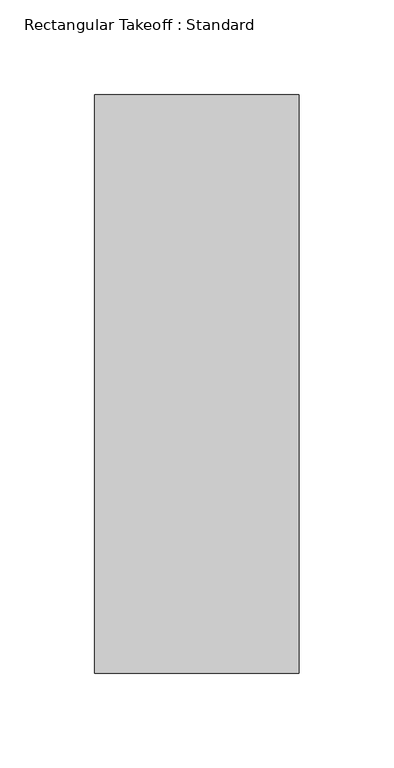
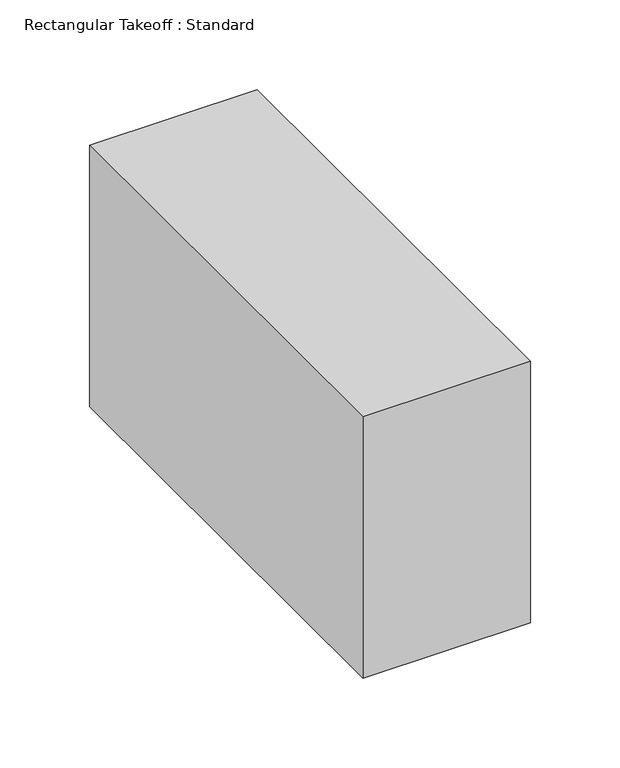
"""IFC4 building model written with IfcOpenShell, lengths in millimetres: duct fitting geometry, Rectangular Takeoff : Standard."""

from ifc_helpers import new_model, si_unit, frame, origin, place, context, project, spatial, polyline, outline, extrude, source, transform, mapped, element, save


def rectangular_takeoff_standard_a8f316fd(model_context):
    return source(origin(), model_context, "Body", "SweptSolid", [
        extrude(outline(polyline([(-6.096, -152.4), (-6.096, 152.4), (101.6, 152.4), (101.6, -152.4), (-6.096, -152.4)])), frame((0.0, 0.0, -88.9), z_axis=(0.0, 0.0, 1.0), x_axis=(1.0, 0.0, 0.0)), (0.0, 0.0, 1.0), 177.8),
    ])


if __name__ == "__main__":
    model = new_model("IFC4")
    model_context = context("Model", 3, world=origin())
    ifc_project = project(units=[si_unit("LENGTHUNIT", "METRE", prefix="MILLI")], contexts=[model_context])
    site = spatial("IfcSite", under=ifc_project)
    building = spatial("IfcBuilding", under=site)
    placement = place(None, origin())
    rectangular_takeoff_standard_shape = rectangular_takeoff_standard_a8f316fd(model_context)
    element("IfcDuctFitting", 1, ObjectType="Rectangular Takeoff : Standard", at=placement, inside=building, context=model_context, shape_type="MappedRepresentation", body=[
        mapped(rectangular_takeoff_standard_shape, transform((0.0, 0.0, 0.0), x_axis=(1.0, 0.0, 0.0), y_axis=(0.0, 1.0, 0.0), z_axis=(0.0, 0.0, 1.0))),
    ])
    save(model, "model.ifc")
